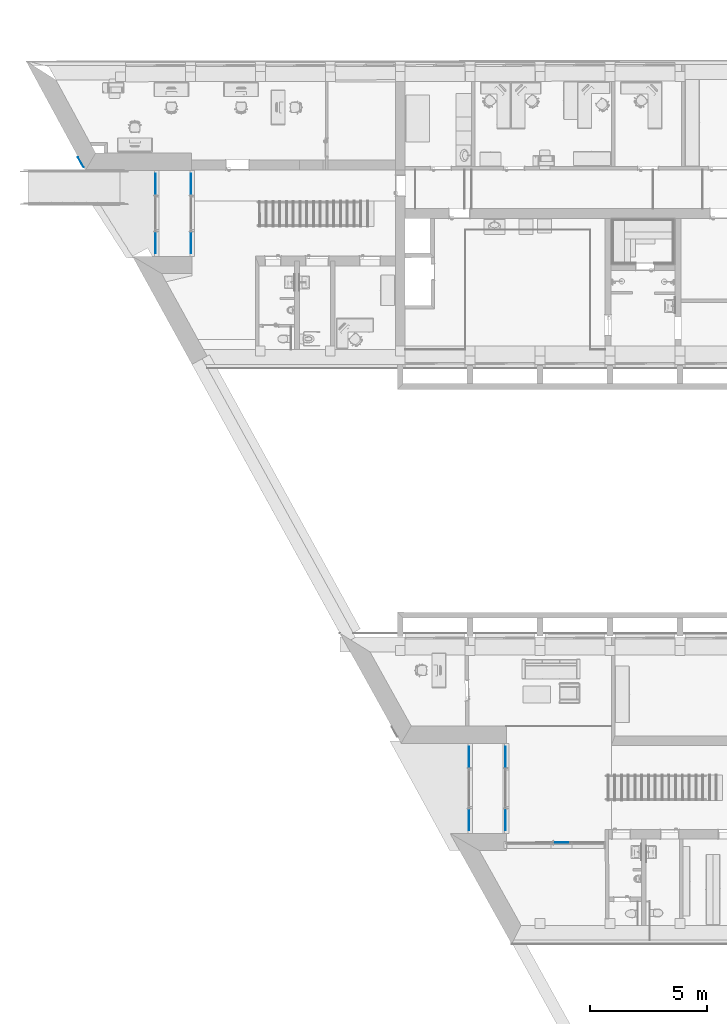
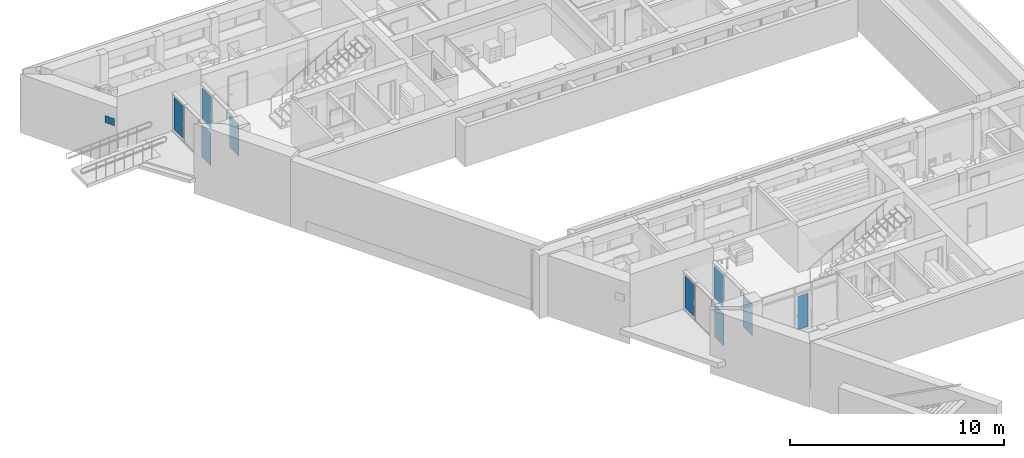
# One storey, part 34 of 127: 9 building element parts, 1 discrete accessory, 14 elements without a shape of their own.
"""IFC2X3 building model written with IfcOpenShell, lengths in millimetres."""

import ifcopenshell
import ifcopenshell.guid

model = None  # the IFC model being written
_history = None  # IfcOwnerHistory: only IFC2X3 demands one
_inside = {}  # id of a spatial element -> (the spatial element, [elements in it])
_under = {}  # id of a project, library or spatial element -> (it, [spatial elements below it])
_declared = {}  # id of a project -> (the project, [libraries it declares])
_typed = {}  # id of a type object -> (the type object, [elements of that type])
_made_of = {}  # id of a material, layer set ... -> (it, [elements and type objects made of it])


def new_model(schema):
    """Start an empty IFC model of exactly this schema.

    Asked for "IFC4X3", IfcOpenShell would pick the latest addendum, in which some entities
    have other attributes; the version numbers below select the first issue.
    IFC2X3 requires an IfcOwnerHistory on every rooted entity: one is made here for all.
    """
    global model, _history
    if schema == "IFC4X3":
        model = ifcopenshell.file(schema_version=(4, 3, 0, 0))
    else:
        model = ifcopenshell.file(schema=schema)
    _inside.clear()
    _under.clear()
    _declared.clear()
    _typed.clear()
    _made_of.clear()
    _history = None
    if model.schema == "IFC2X3":
        org = make("IfcOrganization", Name="unknown")
        user = make(
            "IfcPersonAndOrganization",
            ThePerson=make("IfcPerson", FamilyName="unknown"),
            TheOrganization=org,
        )
        app = make(
            "IfcApplication",
            ApplicationDeveloper=org,
            Version="unknown",
            ApplicationFullName="unknown",
            ApplicationIdentifier="unknown",
        )
        _history = make(
            "IfcOwnerHistory",
            OwningUser=user,
            OwningApplication=app,
            ChangeAction="ADDED",
            CreationDate=0,
        )
    return model


def make(cls, **values):
    """One entity of the class cls with the attributes given. An attribute that is None is left unset."""
    return model.create_entity(
        cls, **{name: value for name, value in values.items() if value is not None}
    )


def entity(cls, *values):
    """Any entity or typed value of the class cls, its attributes in the order of the schema. None: left unset."""
    e = model.create_entity(cls)
    for i, value in enumerate(values):
        if value is not None:
            e[i] = value
    return e


def rooted(cls, **values):
    """An entity with a GlobalId (a new one), such as an element, a storey or a relation."""
    return make(cls, GlobalId=ifcopenshell.guid.new(), OwnerHistory=_history, **values)


def si_unit(unit_type, name, prefix=None):
    """IfcSIUnit, for example si_unit("LENGTHUNIT", "METRE", prefix="MILLI")."""
    return make("IfcSIUnit", UnitType=unit_type, Prefix=prefix, Name=name)


def converted_unit(unit_type, name, factor, base, dimensions=None, offset=None):
    """IfcConversionBasedUnit, such as the inch: factor (a typed value) times the base unit."""
    return make(
        "IfcConversionBasedUnit"
        if offset is None
        else "IfcConversionBasedUnitWithOffset",
        ConversionOffset=offset,
        Dimensions=None
        if dimensions is None
        else entity("IfcDimensionalExponents", *dimensions),
        UnitType=unit_type,
        Name=name,
        ConversionFactor=make(
            "IfcMeasureWithUnit", ValueComponent=factor, UnitComponent=base
        ),
    )


def derived_unit(unit_type, elements):
    """IfcDerivedUnit: a product of units, each with its exponent."""
    return make(
        "IfcDerivedUnit",
        Elements=[
            make("IfcDerivedUnitElement", Unit=unit, Exponent=power)
            for unit, power in elements
        ],
        UnitType=unit_type,
    )


def money_unit(currency):
    """IfcMonetaryUnit."""
    return make("IfcMonetaryUnit", Currency=currency)


def assignment(units):
    """IfcUnitAssignment: the units of a project."""
    return None if units is None else make("IfcUnitAssignment", Units=units)


def point(xyz):
    """IfcCartesianPoint."""
    return None if xyz is None else make("IfcCartesianPoint", Coordinates=xyz)


def direction(xyz):
    """IfcDirection."""
    return None if xyz is None else make("IfcDirection", DirectionRatios=xyz)


def frame(location, z_axis=None, x_axis=None):
    """IfcAxis2Placement3D, a coordinate frame: its origin and axes. An axis left out is left unset."""
    return make(
        "IfcAxis2Placement3D",
        Location=point(location),
        Axis=direction(z_axis),
        RefDirection=direction(x_axis),
    )


def origin_with_axes():
    """The frame at (0, 0, 0) with the z axis (0, 0, 1) and the x axis (1, 0, 0) written out."""
    return frame((0.0, 0.0, 0.0), z_axis=(0.0, 0.0, 1.0), x_axis=(1.0, 0.0, 0.0))


def place(relative_to, where):
    """IfcLocalPlacement: puts the frame where relative to a parent placement (None: the world)."""
    return make(
        "IfcLocalPlacement", PlacementRelTo=relative_to, RelativePlacement=where
    )


def context(
    kind, dimensions, precision=None, world=None, true_north=None, identifier=None
):
    """IfcGeometricRepresentationContext, for example the 3D "Model" context."""
    return make(
        "IfcGeometricRepresentationContext",
        ContextIdentifier=identifier,
        ContextType=kind,
        CoordinateSpaceDimension=dimensions,
        Precision=precision,
        WorldCoordinateSystem=world,
        TrueNorth=true_north,
    )


def subcontext(parent, identifier, kind, view, scale=None):
    """IfcGeometricRepresentationSubContext, for example "Body" below "Model"."""
    return make(
        "IfcGeometricRepresentationSubContext",
        ContextIdentifier=identifier,
        ContextType=kind,
        ParentContext=parent,
        TargetScale=scale,
        TargetView=view,
    )


def project(units=None, contexts=None):
    """IfcProject with its units and contexts."""
    return rooted(
        "IfcProject",
        Name="project",
        RepresentationContexts=contexts,
        UnitsInContext=assignment(units),
    )


def spatial(cls, under=None, at=None, **own):
    """A site, building, storey or space (cls), placed at a placement, below another one or the project."""
    s = rooted(cls, ObjectPlacement=at, **own)
    if under is not None:
        _under.setdefault(under.id(), (under, []))[1].append(s)
    return s


def faces_of(points, faces, orient=None, outer=None):
    """IfcFace entities. A face is a list of loops; a loop is a list of indices into points, from 0.

    orient and outer hold one flag for each loop. By default every Orientation is true, the
    first loop of a face is its IfcFaceOuterBound and the others are IfcFaceBound.
    """
    made = []
    for i, loops in enumerate(faces):
        bounds = []
        for j, loop in enumerate(loops):
            is_outer = j == 0 if outer is None else outer[i][j]
            bounds.append(
                make(
                    "IfcFaceOuterBound" if is_outer else "IfcFaceBound",
                    Bound=make("IfcPolyLoop", Polygon=[points[k] for k in loop]),
                    Orientation=True if orient is None else orient[i][j],
                )
            )
        made.append(make("IfcFace", Bounds=bounds))
    return made


def faceted_brep(points, faces, orient=None, outer=None, voids=None):
    """IfcFacetedBrep: a solid bounded by flat faces; with voids (closed shells), ...WithVoids."""
    shared = [point(p) for p in points]
    hull = make("IfcClosedShell", CfsFaces=faces_of(shared, faces, orient, outer))
    if voids is None:
        return make("IfcFacetedBrep", Outer=hull)
    return make(
        "IfcFacetedBrepWithVoids",
        Outer=hull,
        Voids=[
            make(cls, CfsFaces=faces_of(shared, fs, o, b)) for cls, fs, o, b in voids
        ],
    )


def shape(context_of_items, identifier, shape_type, items):
    """IfcShapeRepresentation: the items that make up one representation, for example the "Body"."""
    return make(
        "IfcShapeRepresentation",
        ContextOfItems=context_of_items,
        RepresentationIdentifier=identifier,
        RepresentationType=shape_type,
        Items=items,
    )


def source(mapping_origin, context_of_items, identifier, shape_type, items):
    """IfcRepresentationMap: a shape defined once, which mapped items show again and again."""
    return make(
        "IfcRepresentationMap",
        MappingOrigin=mapping_origin,
        MappedRepresentation=shape(context_of_items, identifier, shape_type, items),
    )


def transform(
    local_origin,
    x_axis=None,
    y_axis=None,
    z_axis=None,
    scale=None,
    scale2=None,
    scale3=None,
    uniform=True,
):
    """IfcCartesianTransformationOperator3D, or its non-uniform kind. x_axis, y_axis, z_axis: its Axis1, 2, 3."""
    if uniform:
        return make(
            "IfcCartesianTransformationOperator3D",
            Axis1=direction(x_axis),
            Axis2=direction(y_axis),
            LocalOrigin=point(local_origin),
            Scale=scale,
            Axis3=direction(z_axis),
        )
    return make(
        "IfcCartesianTransformationOperator3DnonUniform",
        Axis1=direction(x_axis),
        Axis2=direction(y_axis),
        LocalOrigin=point(local_origin),
        Scale=scale,
        Axis3=direction(z_axis),
        Scale2=scale2,
        Scale3=scale3,
    )


def mapped(mapping_source, mapping_target):
    """IfcMappedItem: shows the shape of a source again, moved by a transform."""
    return make(
        "IfcMappedItem", MappingSource=mapping_source, MappingTarget=mapping_target
    )


def material(Name=None, Category=None):
    """IfcMaterial."""
    return make("IfcMaterial", Name=Name, Category=Category)


def made_of(thing, what):
    """Note that an element or type object is made of a material, layer set ...; save() writes the relation."""
    if what is not None:
        _made_of.setdefault(what.id(), (what, []))[1].append(thing)
    return thing


def type_object(cls, material=None, **own):
    """A type object (cls), such as IfcWallType, which elements share."""
    return made_of(rooted(cls, **own), material)


def element(
    cls,
    number,
    at=None,
    inside=None,
    cuts=None,
    type_object=None,
    material=None,
    context=None,
    identifier="Body",
    shape_type=None,
    held_by="IfcProductDefinitionShape",
    body=None,
    shapes=None,
    **own,
):
    """One element of the class cls, such as IfcWall. Its Tag is "e" and its number.

    at: its placement. inside: the storey or other place that contains it. cuts: it is an
    opening in that element (IfcRelVoidsElement). A single representation is given by context,
    identifier, shape_type and body (its items); several are given by shapes. held_by: the class
    of the entity that holds the representations. save() writes the other relations.
    """
    e = rooted(cls, Tag="e%d" % number, ObjectPlacement=at, **own)
    if body is not None:
        shapes = [shape(context, identifier, shape_type, body)]
    if shapes is not None:
        e.Representation = make(held_by, Representations=shapes)
    if inside is not None:
        _inside.setdefault(inside.id(), (inside, []))[1].append(e)
    if cuts is not None:
        rooted(
            "IfcRelVoidsElement", RelatingBuildingElement=cuts, RelatedOpeningElement=e
        )
    if type_object is not None:
        _typed.setdefault(type_object.id(), (type_object, []))[1].append(e)
    return made_of(e, material)


def aggregate(whole, parts):
    """IfcRelAggregates: a whole, such as a stair, and the parts it consists of."""
    return rooted("IfcRelAggregates", RelatingObject=whole, RelatedObjects=parts)


def save(model, path):
    """Write the relations noted so far, then the file.

    IfcRelAggregates (storeys below a building ...), IfcRelContainedInSpatialStructure (elements
    in a storey), IfcRelDefinesByType, IfcRelAssociatesMaterial and IfcRelDeclares: one each for
    every whole, place, type object, material and project.
    """
    for whole, parts in _under.values():
        aggregate(whole, parts)
    for where, things in _inside.values():
        rooted(
            "IfcRelContainedInSpatialStructure",
            RelatedElements=things,
            RelatingStructure=where,
        )
    for kind, things in _typed.values():
        rooted("IfcRelDefinesByType", RelatedObjects=things, RelatingType=kind)
    for what, things in _made_of.values():
        rooted("IfcRelAssociatesMaterial", RelatedObjects=things, RelatingMaterial=what)
    for by, libraries in _declared.values():
        rooted("IfcRelDeclares", RelatingContext=by, RelatedDefinitions=libraries)
    model.write(path)


model = new_model("IFC2X3")

# Units and contexts
model_context = context("Model", 3, precision=1e-05, world=origin_with_axes(), true_north=direction((0.0, 1.0)))
body_context = subcontext(model_context, "Body", "Model", "MODEL_VIEW")
ifc_project = project(units=[si_unit("LENGTHUNIT", "METRE", prefix="MILLI"), si_unit("AREAUNIT", "SQUARE_METRE"), si_unit("VOLUMEUNIT", "CUBIC_METRE"), converted_unit("PLANEANGLEUNIT", "DEGREE", entity("IfcPlaneAngleMeasure", 0.0174532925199), si_unit("PLANEANGLEUNIT", "RADIAN"), dimensions=[0, 0, 0, 0, 0, 0, 0]), si_unit("SOLIDANGLEUNIT", "STERADIAN"), money_unit("EUR"), converted_unit("TIMEUNIT", "Year", entity("IfcTimeMeasure", 31556926.0), si_unit("TIMEUNIT", "SECOND"), dimensions=[0, 0, 1, 0, 0, 0, 0]), si_unit("MASSUNIT", "GRAM", prefix="KILO"), si_unit("THERMODYNAMICTEMPERATUREUNIT", "DEGREE_CELSIUS"), si_unit("LUMINOUSINTENSITYUNIT", "LUMEN"), si_unit("ENERGYUNIT", "JOULE", prefix="MEGA"), derived_unit("THERMALCONDUCTANCEUNIT", [(si_unit("POWERUNIT", "WATT"), 1), (si_unit("LENGTHUNIT", "METRE"), -1), (si_unit("THERMODYNAMICTEMPERATUREUNIT", "KELVIN"), -1)]), derived_unit("SPECIFICHEATCAPACITYUNIT", [(si_unit("ENERGYUNIT", "JOULE"), 1), (si_unit("MASSUNIT", "GRAM", prefix="KILO"), -1), (si_unit("THERMODYNAMICTEMPERATUREUNIT", "KELVIN"), -1)]), derived_unit("MASSDENSITYUNIT", [(si_unit("MASSUNIT", "GRAM", prefix="KILO"), 1), (si_unit("VOLUMEUNIT", "CUBIC_METRE"), -1)])], contexts=[model_context])

# Site, building, storey
site_placement = place(None, origin_with_axes())
site = spatial("IfcSite", under=ifc_project, at=site_placement, Name="Site", CompositionType="ELEMENT")
building_placement = place(site_placement, origin_with_axes())
building = spatial("IfcBuilding", under=site, at=building_placement, Name="Building", CompositionType="ELEMENT")
storey_placement = place(building_placement, origin_with_axes())
storey = spatial("IfcBuildingStorey", under=building, at=storey_placement, Name="1 KORRUS", CompositionType="ELEMENT", Elevation=0.0)

# Discrete accessory
discrete_accessory_type = type_object("IfcDiscreteAccessoryType", Name="Cube 22")
shared_shape = source(origin_with_axes(), body_context, "Body", "Brep", [
    faceted_brep([(10.0, 0.0, 0.0), (0.0, 0.0, 0.0), (0.0, 500.0, 0.0), (10.0, 500.0, 0.0), (10.0, 0.0, 400.0), (0.0, 0.0, 400.0), (0.0, 500.0, 400.0), (10.0, 500.0, 400.0)], [[[0, 1, 2, 3]], [[1, 0, 4, 5]], [[2, 1, 5, 6]], [[3, 2, 6, 7]], [[0, 3, 7, 4]], [[5, 4, 7, 6]]]),
])
discrete_accessory_placement = place(storey_placement, frame((2131.60735967, 67844.9089, 1291.64182217), z_axis=(0.0, 0.0, 1.0), x_axis=(-0.876214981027, -0.481920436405, 0.0)))
element("IfcDiscreteAccessory", 1, at=discrete_accessory_placement, inside=storey, type_object=discrete_accessory_type, Name="FU - 001", context=body_context, shape_type="MappedRepresentation", body=[
    mapped(shared_shape, transform((0.0, 0.0, 0.0))),
])

# Curtain wall, doors, building element parts
curtain_wall_type_1 = type_object("IfcCurtainWallType", Name="VU-2", PredefinedType="NOTDEFINED")
curtain_wall_1_placement = place(storey_placement, frame((18897.7258144, 42128.0459009, 25.0), z_axis=(0.0, 0.0, 1.0), x_axis=(1.0, 0.0, 0.0)))
curtain_wall_1 = element("IfcCurtainWall", 2, at=curtain_wall_1_placement, inside=storey, type_object=curtain_wall_type_1, Name="Välisuks")
door_style_1 = type_object("IfcDoorStyle", Name="1150 x 5 x 20", ConstructionType="NOTDEFINED", OperationType="NOTDEFINED", ParameterTakesPrecedence=False, Sizeable=False)
door_1_placement = place(curtain_wall_1_placement, frame((0.0, 0.0, 1075.0), z_axis=(0.0, 0.0, 1.0), x_axis=(0.0, 1.0, 0.0)))
door_1 = element("IfcDoor", 3, at=door_1_placement, type_object=door_style_1, Name="Välisuks * CW Door 22")
ifc_material = material(Name="Klaas (1)")
building_element_part_1_placement = place(door_1_placement, origin_with_axes())
building_element_part_1 = element("IfcBuildingElementPart", 4, at=building_element_part_1_placement, material=ifc_material, Name="Klaas (1)", context=body_context, shape_type="Brep", body=[
    faceted_brep([(435.0, -5.99999999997, -929.999996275), (-425.000009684, -5.99999999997, -929.999996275), (-425.000009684, 9.99999999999, -929.999996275), (435.0, 9.99999999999, -929.999996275), (435.0, -5.99999999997, 909.999996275), (-425.000009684, -5.99999999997, 909.999996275), (-425.000009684, 9.99999999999, 909.999996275), (435.0, 9.99999999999, 909.999996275)], [[[0, 1, 2, 3]], [[0, 4, 5, 1]], [[1, 5, 6, 2]], [[3, 2, 6, 7]], [[4, 0, 3, 7]], [[5, 4, 7, 6]]]),
])
aggregate(door_1, [building_element_part_1])
door_2_placement = place(curtain_wall_1_placement, frame((0.0, -2715.54791545, 1075.0), z_axis=(0.0, 0.0, 1.0), x_axis=(0.0, 1.0, 0.0)))
door_2 = element("IfcDoor", 5, at=door_2_placement, type_object=door_style_1, Name="Välisuks * CW Door 22")
aggregate(curtain_wall_1, [door_1, door_2])
building_element_part_2_placement = place(door_2_placement, origin_with_axes())
building_element_part_2 = element("IfcBuildingElementPart", 6, at=building_element_part_2_placement, material=ifc_material, Name="Klaas (1)", context=body_context, shape_type="Brep", body=[
    faceted_brep([(424.99999851, -5.99999999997, -929.999996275), (-435.000011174, -5.99999999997, -929.999996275), (-435.000011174, 9.99999999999, -929.999996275), (424.99999851, 9.99999999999, -929.999996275), (424.99999851, -5.99999999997, 909.999996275), (-435.000011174, -5.99999999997, 909.999996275), (-435.000011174, 9.99999999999, 909.999996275), (424.99999851, 9.99999999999, 909.999996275)], [[[0, 1, 2, 3]], [[0, 4, 5, 1]], [[1, 5, 6, 2]], [[3, 2, 6, 7]], [[4, 0, 3, 7]], [[5, 4, 7, 6]]]),
])
aggregate(door_2, [building_element_part_2])

# Curtain wall, door, building element part
curtain_wall_type_2 = type_object("IfcCurtainWallType", Name="SKS-2", PredefinedType="NOTDEFINED")
curtain_wall_2_placement = place(storey_placement, frame((24016.5741865, 38437.6405543, -0.000166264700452), z_axis=(0.0, 0.0, 1.0), x_axis=(1.0, 0.0, 0.0)))
curtain_wall_2 = element("IfcCurtainWall", 7, at=curtain_wall_2_placement, inside=storey, type_object=curtain_wall_type_2, Name="Klaassein")
door_style_2 = type_object("IfcDoorStyle", Name="Distinct Panel 5 x 5 x 20", ConstructionType="NOTDEFINED", OperationType="NOTDEFINED", ParameterTakesPrecedence=False, Sizeable=False)
door_3_placement = place(curtain_wall_2_placement, frame((-1154.99963122, -0.922976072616, 1100.0), z_axis=(0.0, 0.0, 1.0), x_axis=(0.999999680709, 0.000799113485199, 0.0)))
door_3 = element("IfcDoor", 8, at=door_3_placement, type_object=door_style_2, Name="Siseklaasseina uks * CW Door 22")
aggregate(curtain_wall_2, [door_3])
building_element_part_3_placement = place(door_3_placement, origin_with_axes())
building_element_part_3 = element("IfcBuildingElementPart", 9, at=building_element_part_3_placement, material=ifc_material, Name="Klaas (1)", context=body_context, shape_type="Brep", body=[
    faceted_brep([(285.0, 10.0000000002, -980.0), (285.0, -5.9999999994, -980.0), (-285.0, -5.9999999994, -980.0), (-285.0, 10.0000000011, -980.0), (285.0, 10.0000000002, 930.0), (285.0, -5.9999999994, 930.0), (-285.0, -5.9999999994, 930.0), (-285.0, 10.0000000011, 930.0)], [[[0, 1, 2, 3]], [[4, 5, 1, 0]], [[1, 5, 6, 2]], [[3, 2, 6, 7]], [[0, 3, 7, 4]], [[7, 6, 5, 4]]]),
])
aggregate(door_3, [building_element_part_3])

# Curtain wall, doors, building element parts
curtain_wall_type_3 = type_object("IfcCurtainWallType", Name="SU-2", PredefinedType="NOTDEFINED")
curtain_wall_3_placement = place(storey_placement, frame((20461.0776503, 42128.0462024, 25.0), z_axis=(0.0, 0.0, 1.0), x_axis=(1.0, 0.0, 0.0)))
curtain_wall_3 = element("IfcCurtainWall", 10, at=curtain_wall_3_placement, inside=storey, type_object=curtain_wall_type_3, Name="Siseuks")
door_style_3 = type_object("IfcDoorStyle", Name="Distinct Panel 1150 x 5 x 20", ConstructionType="NOTDEFINED", OperationType="NOTDEFINED", ParameterTakesPrecedence=False, Sizeable=False)
door_4_placement = place(curtain_wall_3_placement, frame((0.0, 0.0, 1075.0), z_axis=(0.0, 0.0, 1.0), x_axis=(3.00618629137e-05, 0.999999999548, 0.0)))
door_4 = element("IfcDoor", 11, at=door_4_placement, type_object=door_style_3, Name="Välisuks * CW Door 22")
building_element_part_4_placement = place(door_4_placement, origin_with_axes())
building_element_part_4 = element("IfcBuildingElementPart", 12, at=building_element_part_4_placement, material=ifc_material, Name="Klaas (1)", context=body_context, shape_type="Brep", body=[
    faceted_brep([(434.999999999, -6.00000000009, -929.999996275), (-425.000009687, -6.00000000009, -929.999996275), (-425.000009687, 9.99999999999, -929.999996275), (434.999999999, 9.99999999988, -929.999996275), (434.999999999, -6.00000000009, 909.999996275), (-425.000009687, -6.00000000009, 909.999996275), (-425.000009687, 9.99999999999, 909.999996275), (434.999999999, 9.99999999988, 909.999996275)], [[[0, 1, 2, 3]], [[0, 4, 5, 1]], [[1, 5, 6, 2]], [[3, 2, 6, 7]], [[4, 0, 3, 7]], [[5, 4, 7, 6]]]),
])
aggregate(door_4, [building_element_part_4])
door_5_placement = place(curtain_wall_3_placement, frame((-0.0816307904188, -2715.42688036, 1075.0), z_axis=(0.0, 0.0, 1.0), x_axis=(3.00618625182e-05, 0.999999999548, 0.0)))
door_5 = element("IfcDoor", 13, at=door_5_placement, type_object=door_style_1, Name="Siseuks * CW Door 22")
aggregate(curtain_wall_3, [door_4, door_5])
building_element_part_5_placement = place(door_5_placement, origin_with_axes())
building_element_part_5 = element("IfcBuildingElementPart", 14, at=building_element_part_5_placement, material=ifc_material, Name="Klaas (1)", context=body_context, shape_type="Brep", body=[
    faceted_brep([(424.99999851, -5.99999999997, -929.999996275), (-435.000011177, -5.99999999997, -929.999996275), (-435.000011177, 9.99999999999, -929.999996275), (424.99999851, 10.0000000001, -929.999996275), (424.99999851, -5.99999999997, 909.999996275), (-435.000011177, -5.99999999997, 909.999996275), (-435.000011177, 9.99999999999, 909.999996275), (424.99999851, 10.0000000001, 909.999996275)], [[[0, 1, 2, 3]], [[0, 4, 5, 1]], [[1, 5, 6, 2]], [[3, 2, 6, 7]], [[4, 0, 3, 7]], [[5, 4, 7, 6]]]),
])
aggregate(door_5, [building_element_part_5])

curtain_wall_type_4 = type_object("IfcCurtainWallType", Name="SU-1", PredefinedType="NOTDEFINED")
curtain_wall_4_placement = place(storey_placement, frame((6971.7658044, 65433.451484, 25.0), z_axis=(0.0, 0.0, 1.0), x_axis=(1.0, 0.0, 0.0)))
curtain_wall_4 = element("IfcCurtainWall", 15, at=curtain_wall_4_placement, inside=storey, type_object=curtain_wall_type_4, Name="Siseuks")
door_6_placement = place(curtain_wall_4_placement, frame((0.0, 1268.3040286, 1075.0), z_axis=(0.0, 0.0, 1.0), x_axis=(0.0, -1.0, 0.0)))
door_6 = element("IfcDoor", 16, at=door_6_placement, type_object=door_style_1, Name="Siseuks * CW Door 22")
building_element_part_6_placement = place(door_6_placement, origin_with_axes())
building_element_part_6 = element("IfcBuildingElementPart", 17, at=building_element_part_6_placement, material=ifc_material, Name="Klaas (1)", context=body_context, shape_type="Brep", body=[
    faceted_brep([(424.99999851, 5.99999999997, -929.999996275), (424.99999851, -9.99999999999, -929.999996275), (-435.000011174, -9.99999999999, -929.999996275), (-435.000011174, 5.99999999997, -929.999996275), (424.99999851, 5.99999999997, 909.999996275), (424.99999851, -9.99999999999, 909.999996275), (-435.000011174, -9.99999999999, 909.999996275), (-435.000011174, 5.99999999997, 909.999996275)], [[[0, 1, 2, 3]], [[4, 5, 1, 0]], [[1, 5, 6, 2]], [[3, 2, 6, 7]], [[0, 3, 7, 4]], [[7, 6, 5, 4]]]),
])
aggregate(door_6, [building_element_part_6])
door_7_placement = place(curtain_wall_4_placement, frame((0.0, -1268.3040286, 1075.0), z_axis=(0.0, 0.0, 1.0), x_axis=(0.0, -1.0, 0.0)))
door_7 = element("IfcDoor", 18, at=door_7_placement, type_object=door_style_1, Name="Siseuks * CW Door 22")
aggregate(curtain_wall_4, [door_6, door_7])
building_element_part_7_placement = place(door_7_placement, origin_with_axes())
building_element_part_7 = element("IfcBuildingElementPart", 19, at=building_element_part_7_placement, material=ifc_material, Name="Klaas (1)", context=body_context, shape_type="Brep", body=[
    faceted_brep([(435.0, 5.99999999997, -929.999996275), (435.0, -9.99999999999, -929.999996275), (-425.000009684, -9.99999999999, -929.999996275), (-425.000009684, 5.99999999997, -929.999996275), (435.0, 5.99999999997, 909.999996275), (435.0, -9.99999999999, 909.999996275), (-425.000009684, -9.99999999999, 909.999996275), (-425.000009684, 5.99999999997, 909.999996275)], [[[0, 1, 2, 3]], [[4, 5, 1, 0]], [[1, 5, 6, 2]], [[3, 2, 6, 7]], [[0, 3, 7, 4]], [[7, 6, 5, 4]]]),
])
aggregate(door_7, [building_element_part_7])

curtain_wall_type_5 = type_object("IfcCurtainWallType", Name="VU-1", PredefinedType="NOTDEFINED")
curtain_wall_5_placement = place(storey_placement, frame((5451.67242151, 65433.4489779, 25.0), z_axis=(0.0, 0.0, 1.0), x_axis=(1.0, 0.0, 0.0)))
curtain_wall_5 = element("IfcCurtainWall", 20, at=curtain_wall_5_placement, inside=storey, type_object=curtain_wall_type_5, Name="Välisuks")
door_8_placement = place(curtain_wall_5_placement, frame((0.0, 1268.3040286, 1075.0), z_axis=(0.0, 0.0, 1.0), x_axis=(0.0, -1.0, 0.0)))
door_8 = element("IfcDoor", 21, at=door_8_placement, type_object=door_style_1, Name="Välisuks * CW Door 22")
building_element_part_8_placement = place(door_8_placement, origin_with_axes())
building_element_part_8 = element("IfcBuildingElementPart", 22, at=building_element_part_8_placement, material=ifc_material, Name="Klaas (1)", context=body_context, shape_type="Brep", body=[
    faceted_brep([(424.99999851, 5.99999999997, -929.999996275), (424.99999851, -9.99999999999, -929.999996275), (-435.000011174, -9.99999999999, -929.999996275), (-435.000011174, 5.99999999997, -929.999996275), (424.99999851, 5.99999999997, 909.999996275), (424.99999851, -9.99999999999, 909.999996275), (-435.000011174, -9.99999999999, 909.999996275), (-435.000011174, 5.99999999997, 909.999996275)], [[[0, 1, 2, 3]], [[4, 5, 1, 0]], [[1, 5, 6, 2]], [[3, 2, 6, 7]], [[0, 3, 7, 4]], [[7, 6, 5, 4]]]),
])
aggregate(door_8, [building_element_part_8])
door_9_placement = place(curtain_wall_5_placement, frame((0.0, -1268.3040286, 1075.0), z_axis=(0.0, 0.0, 1.0), x_axis=(0.0, -1.0, 0.0)))
door_9 = element("IfcDoor", 23, at=door_9_placement, type_object=door_style_1, Name="Välisuks * CW Door 22")
aggregate(curtain_wall_5, [door_8, door_9])
building_element_part_9_placement = place(door_9_placement, origin_with_axes())
building_element_part_9 = element("IfcBuildingElementPart", 24, at=building_element_part_9_placement, material=ifc_material, Name="Klaas (1)", context=body_context, shape_type="Brep", body=[
    faceted_brep([(434.999999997, 5.99999999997, -929.999996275), (434.999999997, -9.99999999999, -929.999996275), (-425.000009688, -9.99999999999, -929.999996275), (-425.000009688, 5.99999999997, -929.999996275), (434.999999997, 5.99999999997, 909.999996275), (434.999999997, -9.99999999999, 909.999996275), (-425.000009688, -9.99999999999, 909.999996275), (-425.000009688, 5.99999999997, 909.999996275)], [[[0, 1, 2, 3]], [[4, 5, 1, 0]], [[1, 5, 6, 2]], [[3, 2, 6, 7]], [[0, 3, 7, 4]], [[7, 6, 5, 4]]]),
])
aggregate(door_9, [building_element_part_9])

save(model, "model.ifc")
